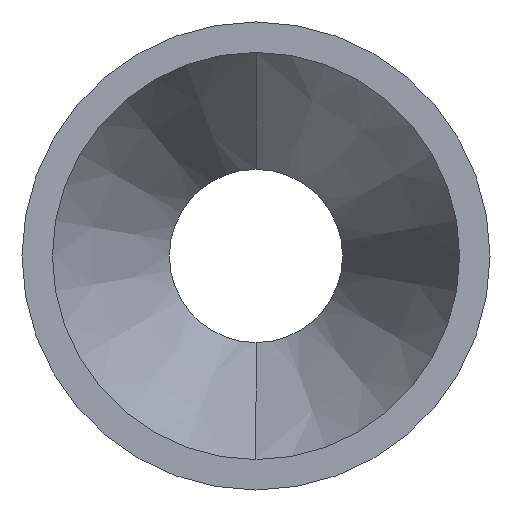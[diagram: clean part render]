
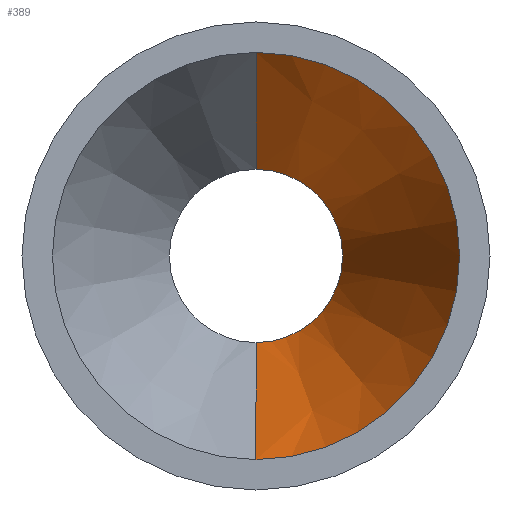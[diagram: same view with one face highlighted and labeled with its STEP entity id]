
A CAD part, left-side view. The second image highlights one B-rep face of the part: STEP entity #389.
In plain terms, the highlighted conical face has half-angle 24.436 degrees and reference radius 11.05 mm.
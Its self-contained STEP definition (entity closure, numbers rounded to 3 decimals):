
#6 = CARTESIAN_POINT ( 'NONE',  ( 23.5, 0., 4.7 ) ) ;
#17 = VERTEX_POINT ( 'NONE', #303 ) ;
#26 = EDGE_CURVE ( 'NONE', #282, #17, #288, .T. ) ;
#30 = DIRECTION ( 'NONE',  ( -1., 0., 0. ) ) ;
#36 = DIRECTION ( 'NONE',  ( -0.91, 0., 0.414 ) ) ;
#40 = CARTESIAN_POINT ( 'NONE',  ( 9.525, 0., 11.05 ) ) ;
#41 = ORIENTED_EDGE ( 'NONE', *, *, #26, .T. ) ;
#48 = LINE ( 'NONE', #40, #333 ) ;
#49 = ORIENTED_EDGE ( 'NONE', *, *, #177, .F. ) ;
#55 = CARTESIAN_POINT ( 'NONE',  ( 9.525, 0., -11.05 ) ) ;
#79 = FACE_OUTER_BOUND ( 'NONE', #213, .T. ) ;
#121 = EDGE_CURVE ( 'NONE', #17, #138, #131, .T. ) ;
#131 = CIRCLE ( 'NONE', #172, 11.05 ) ;
#132 = EDGE_CURVE ( 'NONE', #282, #208, #253, .T. ) ;
#134 = CARTESIAN_POINT ( 'NONE',  ( 23.5, 0., -4.7 ) ) ;
#138 = VERTEX_POINT ( 'NONE', #391 ) ;
#139 = AXIS2_PLACEMENT_3D ( 'NONE', #285, #30, #182 ) ;
#155 = DIRECTION ( 'NONE',  ( -0.91, 0., -0.414 ) ) ;
#172 = AXIS2_PLACEMENT_3D ( 'NONE', #300, #261, #324 ) ;
#177 = EDGE_CURVE ( 'NONE', #208, #138, #48, .T. ) ;
#182 = DIRECTION ( 'NONE',  ( 0., 0., 1. ) ) ;
#200 = ORIENTED_EDGE ( 'NONE', *, *, #132, .F. ) ;
#207 = VECTOR ( 'NONE', #155, 1000. ) ;
#208 = VERTEX_POINT ( 'NONE', #6 ) ;
#213 = EDGE_LOOP ( 'NONE', ( #200, #41, #395, #49 ) ) ;
#253 = CIRCLE ( 'NONE', #257, 4.7 ) ;
#255 = DIRECTION ( 'NONE',  ( 0., 0., 1. ) ) ;
#257 = AXIS2_PLACEMENT_3D ( 'NONE', #358, #356, #255 ) ;
#261 = DIRECTION ( 'NONE',  ( -1., 0., 0. ) ) ;
#282 = VERTEX_POINT ( 'NONE', #134 ) ;
#285 = CARTESIAN_POINT ( 'NONE',  ( 9.525, 0., 0. ) ) ;
#288 = LINE ( 'NONE', #55, #207 ) ;
#300 = CARTESIAN_POINT ( 'NONE',  ( 9.525, 0., 0. ) ) ;
#303 = CARTESIAN_POINT ( 'NONE',  ( 9.525, 0., -11.05 ) ) ;
#324 = DIRECTION ( 'NONE',  ( 0., 0., 1. ) ) ;
#333 = VECTOR ( 'NONE', #36, 1000. ) ;
#334 = CONICAL_SURFACE ( 'NONE', #139, 11.05, 0.426 ) ;
#356 = DIRECTION ( 'NONE',  ( -1., 0., 0. ) ) ;
#358 = CARTESIAN_POINT ( 'NONE',  ( 23.5, 0., 0. ) ) ;
#389 = ADVANCED_FACE ( 'NONE', ( #79 ), #334, .F. ) ;
#391 = CARTESIAN_POINT ( 'NONE',  ( 9.525, 0., 11.05 ) ) ;
#395 = ORIENTED_EDGE ( 'NONE', *, *, #121, .T. ) ;
